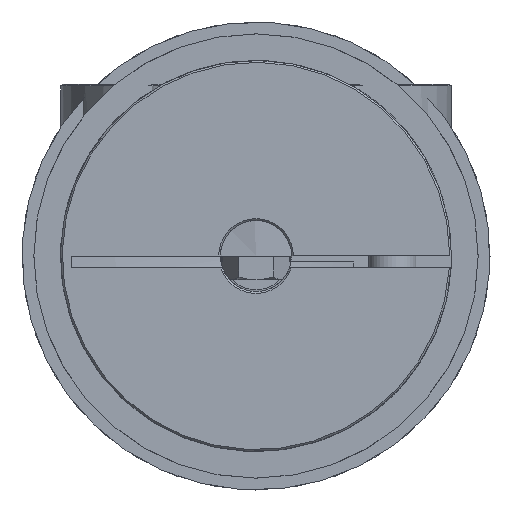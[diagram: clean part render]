
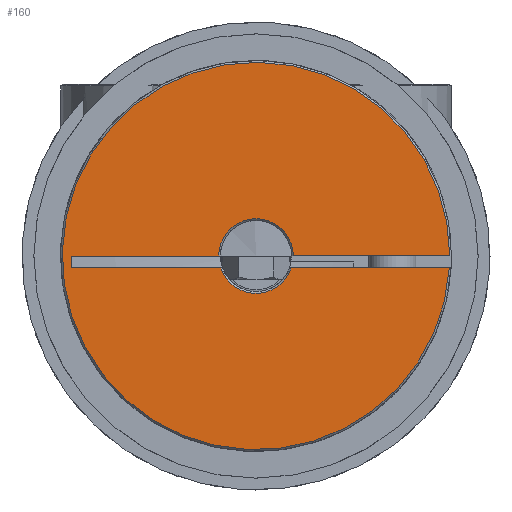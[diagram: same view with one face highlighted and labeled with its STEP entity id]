
A CAD part, left-side view. The second image highlights one B-rep face of the part: STEP entity #160.
In plain terms, the highlighted planar face has unit normal (-1, 0, 0) as drawn and (0, 0, 1) by its records, which use the part's own axes.
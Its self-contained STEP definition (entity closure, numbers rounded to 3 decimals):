
#160 = ADVANCED_FACE( 'NONE', ( #283 ), #284, .T. );
#283 = FACE_OUTER_BOUND( '', #418, .T. );
#284 = PLANE( '', #419 );
#418 = EDGE_LOOP( '', ( #804, #805, #806, #807, #808, #809, #810, #811 ) );
#419 = AXIS2_PLACEMENT_3D( '', #812, #813, #814 );
#804 = ORIENTED_EDGE( '', *, *, #1400, .F. );
#805 = ORIENTED_EDGE( '', *, *, #1417, .T. );
#806 = ORIENTED_EDGE( '', *, *, #1406, .F. );
#807 = ORIENTED_EDGE( '', *, *, #1420, .T. );
#808 = ORIENTED_EDGE( '', *, *, #1366, .T. );
#809 = ORIENTED_EDGE( '', *, *, #1412, .T. );
#810 = ORIENTED_EDGE( '', *, *, #1414, .T. );
#811 = ORIENTED_EDGE( '', *, *, #1422, .F. );
#812 = CARTESIAN_POINT( '', ( 0., 0., 29. ) );
#813 = DIRECTION( '', ( 0., 0., 1. ) );
#814 = DIRECTION( '', ( 1., 0., 0. ) );
#1366 = EDGE_CURVE( 'NONE', #1960, #1958, #1961, .T. );
#1400 = EDGE_CURVE( 'NONE', #2013, #2015, #2016, .F. );
#1406 = EDGE_CURVE( 'NONE', #2023, #2024, #2025, .F. );
#1412 = EDGE_CURVE( 'NONE', #1958, #2031, #2033, .F. );
#1414 = EDGE_CURVE( 'NONE', #2031, #2035, #2036, .T. );
#1417 = EDGE_CURVE( 'NONE', #2013, #2024, #2039, .F. );
#1420 = EDGE_CURVE( 'NONE', #2023, #1960, #2042, .T. );
#1422 = EDGE_CURVE( 'NONE', #2015, #2035, #2044, .F. );
#1958 = VERTEX_POINT( 'NONE', #3227 );
#1960 = VERTEX_POINT( 'NONE', #3232 );
#1961 = LINE( '', #3233, #3234 );
#2013 = VERTEX_POINT( 'NONE', #3305 );
#2015 = VERTEX_POINT( 'NONE', #3308 );
#2016 = LINE( '', #3309, #3310 );
#2023 = VERTEX_POINT( 'NONE', #3318 );
#2024 = VERTEX_POINT( 'NONE', #3319 );
#2025 = LINE( '', #3320, #3321 );
#2031 = VERTEX_POINT( 'NONE', #3330 );
#2033 = CIRCLE( '', #3335, 6.3 );
#2035 = VERTEX_POINT( 'NONE', #3337 );
#2036 = LINE( '', #3338, #3339 );
#2039 = CIRCLE( '', #3342, 6.3 );
#2042 = CIRCLE( '', #3345, 32.7 );
#2044 = LINE( '', #3347, #3348 );
#3227 = CARTESIAN_POINT( '', ( 5.974, -2., 29. ) );
#3232 = CARTESIAN_POINT( '', ( 32.639, -2., 29. ) );
#3233 = CARTESIAN_POINT( '', ( 0., -2., 29. ) );
#3234 = VECTOR( '', #3699, 1000. );
#3305 = CARTESIAN_POINT( '', ( -6.3, 0., 29. ) );
#3308 = CARTESIAN_POINT( '', ( -31.103, 0., 29. ) );
#3309 = CARTESIAN_POINT( '', ( 16.5, 0., 29. ) );
#3310 = VECTOR( '', #3747, 1000. );
#3318 = CARTESIAN_POINT( '', ( 32.7, 0., 29. ) );
#3319 = CARTESIAN_POINT( '', ( 6.3, 0., 29. ) );
#3320 = CARTESIAN_POINT( '', ( 16.5, 0., 29. ) );
#3321 = VECTOR( '', #3755, 1000. );
#3330 = CARTESIAN_POINT( '', ( -5.974, -2., 29. ) );
#3335 = AXIS2_PLACEMENT_3D( '', #3759, #3760, #3761 );
#3337 = CARTESIAN_POINT( '', ( -31.103, -2., 29. ) );
#3338 = CARTESIAN_POINT( '', ( 0., -2., 29. ) );
#3339 = VECTOR( '', #3762, 1000. );
#3342 = AXIS2_PLACEMENT_3D( '', #3766, #3767, #3768 );
#3345 = AXIS2_PLACEMENT_3D( '', #3772, #3773, #3774 );
#3347 = CARTESIAN_POINT( '', ( -31.103, -2., 29. ) );
#3348 = VECTOR( '', #3775, 1000. );
#3699 = DIRECTION( '', ( -1., 0., 0. ) );
#3747 = DIRECTION( '', ( 1., 0., 0. ) );
#3755 = DIRECTION( '', ( 1., 0., 0. ) );
#3759 = CARTESIAN_POINT( '', ( 0., 0., 29. ) );
#3760 = DIRECTION( '', ( 0., 0., 1. ) );
#3761 = DIRECTION( '', ( 1., 0., 0. ) );
#3762 = DIRECTION( '', ( -1., 0., 0. ) );
#3766 = CARTESIAN_POINT( '', ( 0., 0., 29. ) );
#3767 = DIRECTION( '', ( 0., 0., 1. ) );
#3768 = DIRECTION( '', ( 1., 0., 0. ) );
#3772 = CARTESIAN_POINT( '', ( 0., 0., 29. ) );
#3773 = DIRECTION( '', ( 0., 0., 1. ) );
#3774 = DIRECTION( '', ( 1., 0., 0. ) );
#3775 = DIRECTION( '', ( 0., 1., 0. ) );
